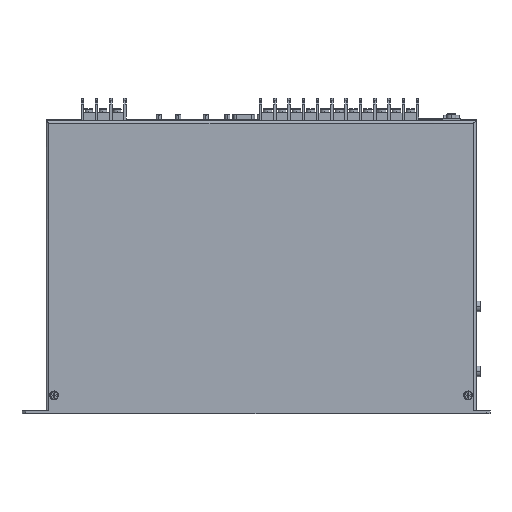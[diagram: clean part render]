
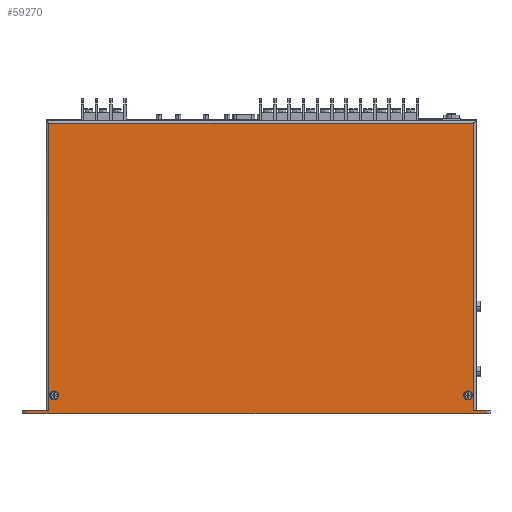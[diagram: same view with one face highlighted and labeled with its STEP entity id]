
A CAD part, left-side view. The second image highlights one B-rep face of the part: STEP entity #59270.
In plain terms, the highlighted planar face has unit normal (-1, 0, 0).
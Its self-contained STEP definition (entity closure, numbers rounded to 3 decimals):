
#4752 = VECTOR ( 'NONE', #67605, 1000. ) ;
#4801 = EDGE_CURVE ( 'NONE', #194789, #201209, #72274, .T. ) ;
#9593 = LINE ( 'NONE', #145103, #4752 ) ;
#9686 = DIRECTION ( 'NONE',  ( 0., 0., -1. ) ) ;
#10917 = VERTEX_POINT ( 'NONE', #179606 ) ;
#10939 = EDGE_CURVE ( 'NONE', #44214, #85034, #149788, .T. ) ;
#11603 = DIRECTION ( 'NONE',  ( 0., 0., 1. ) ) ;
#11951 = CARTESIAN_POINT ( 'NONE',  ( 0., 340.131, 569.946 ) ) ;
#12133 = ORIENTED_EDGE ( 'NONE', *, *, #198723, .T. ) ;
#12541 = CARTESIAN_POINT ( 'NONE',  ( 0., 12.675, 223.748 ) ) ;
#12748 = PLANE ( 'NONE',  #196624 ) ;
#13236 = VERTEX_POINT ( 'NONE', #134756 ) ;
#15186 = EDGE_CURVE ( 'NONE', #124789, #13236, #189703, .T. ) ;
#20382 = CARTESIAN_POINT ( 'NONE',  ( 0., 360.68, 2.286 ) ) ;
#27376 = CARTESIAN_POINT ( 'NONE',  ( 0., 357.632, 2.286 ) ) ;
#31124 = VECTOR ( 'NONE', #11603, 1000. ) ;
#32118 = DIRECTION ( 'NONE',  ( 1., 0., 0. ) ) ;
#34522 = CIRCLE ( 'NONE', #132486, 3.429 ) ;
#36163 = VERTEX_POINT ( 'NONE', #51923 ) ;
#37307 = AXIS2_PLACEMENT_3D ( 'NONE', #141324, #48187, #156928 ) ;
#44214 = VERTEX_POINT ( 'NONE', #196427 ) ;
#48187 = DIRECTION ( 'NONE',  ( 1., 0., 0. ) ) ;
#51210 = EDGE_LOOP ( 'NONE', ( #199321, #156815, #126453, #65942, #137754, #92869, #102655, #170376 ) ) ;
#51923 = CARTESIAN_POINT ( 'NONE',  ( 0., 16.866, 17.399 ) ) ;
#59270 = ADVANCED_FACE ( 'NONE', ( #201613, #119016, #128734 ), #12748, .F. ) ;
#59541 = CARTESIAN_POINT ( 'NONE',  ( 0., 10.668, 569.946 ) ) ;
#59786 = LINE ( 'NONE', #20382, #137638 ) ;
#63083 = EDGE_CURVE ( 'NONE', #201209, #10917, #140081, .T. ) ;
#65389 = EDGE_CURVE ( 'NONE', #93825, #133464, #105955, .T. ) ;
#65635 = DIRECTION ( 'NONE',  ( 0., 1., 0. ) ) ;
#65942 = ORIENTED_EDGE ( 'NONE', *, *, #112232, .F. ) ;
#66018 = CIRCLE ( 'NONE', #195060, 3.429 ) ;
#66907 = CARTESIAN_POINT ( 'NONE',  ( 0., 12.675, 2.286 ) ) ;
#67290 = CIRCLE ( 'NONE', #37307, 3.429 ) ;
#67605 = DIRECTION ( 'NONE',  ( 0., 1., 0. ) ) ;
#68735 = LINE ( 'NONE', #11951, #187905 ) ;
#70815 = DIRECTION ( 'NONE',  ( 0., 0., 1. ) ) ;
#71452 = LINE ( 'NONE', #194395, #190671 ) ;
#72274 = LINE ( 'NONE', #120287, #31124 ) ;
#74717 = CARTESIAN_POINT ( 'NONE',  ( 0., 340.131, 2.286 ) ) ;
#75163 = DIRECTION ( 'NONE',  ( 0., 0., -1. ) ) ;
#81213 = CARTESIAN_POINT ( 'NONE',  ( 0., 340.131, 223.748 ) ) ;
#85034 = VERTEX_POINT ( 'NONE', #102681 ) ;
#87112 = DIRECTION ( 'NONE',  ( 1., 0., 0. ) ) ;
#92869 = ORIENTED_EDGE ( 'NONE', *, *, #114238, .F. ) ;
#93825 = VERTEX_POINT ( 'NONE', #27376 ) ;
#93843 = VECTOR ( 'NONE', #65635, 1000. ) ;
#95995 = ORIENTED_EDGE ( 'NONE', *, *, #108989, .T. ) ;
#102655 = ORIENTED_EDGE ( 'NONE', *, *, #15186, .T. ) ;
#102681 = CARTESIAN_POINT ( 'NONE',  ( 0., 335.94, 10.541 ) ) ;
#102745 = DIRECTION ( 'NONE',  ( 1., 0., 0. ) ) ;
#103778 = DIRECTION ( 'NONE',  ( 0., 0., -1. ) ) ;
#105030 = DIRECTION ( 'NONE',  ( 0., 0., -1. ) ) ;
#105955 = LINE ( 'NONE', #196813, #188589 ) ;
#106810 = VERTEX_POINT ( 'NONE', #167903 ) ;
#107688 = EDGE_LOOP ( 'NONE', ( #95995, #12133 ) ) ;
#108989 = EDGE_CURVE ( 'NONE', #106810, #36163, #66018, .T. ) ;
#112232 = EDGE_CURVE ( 'NONE', #93825, #176302, #71452, .T. ) ;
#114238 = EDGE_CURVE ( 'NONE', #124789, #133464, #9593, .T. ) ;
#118936 = EDGE_CURVE ( 'NONE', #194789, #13236, #59786, .T. ) ;
#119016 = FACE_BOUND ( 'NONE', #195337, .T. ) ;
#120287 = CARTESIAN_POINT ( 'NONE',  ( 0., 12.675, 569.946 ) ) ;
#124789 = VERTEX_POINT ( 'NONE', #135282 ) ;
#125064 = CARTESIAN_POINT ( 'NONE',  ( 0., 16.866, 13.97 ) ) ;
#126453 = ORIENTED_EDGE ( 'NONE', *, *, #198377, .T. ) ;
#128734 = FACE_OUTER_BOUND ( 'NONE', #51210, .T. ) ;
#129745 = CARTESIAN_POINT ( 'NONE',  ( 0., 357.632, 0. ) ) ;
#132486 = AXIS2_PLACEMENT_3D ( 'NONE', #195801, #102745, #9686 ) ;
#133464 = VERTEX_POINT ( 'NONE', #129745 ) ;
#134756 = CARTESIAN_POINT ( 'NONE',  ( 0., 3.048, 2.286 ) ) ;
#135282 = CARTESIAN_POINT ( 'NONE',  ( 0., 3.048, 0. ) ) ;
#137638 = VECTOR ( 'NONE', #160239, 1000. ) ;
#137754 = ORIENTED_EDGE ( 'NONE', *, *, #65389, .T. ) ;
#140081 = LINE ( 'NONE', #81213, #93843 ) ;
#140707 = DIRECTION ( 'NONE',  ( 0., 0., -1. ) ) ;
#141324 = CARTESIAN_POINT ( 'NONE',  ( 0., 335.94, 13.97 ) ) ;
#143485 = VECTOR ( 'NONE', #70815, 1000. ) ;
#145103 = CARTESIAN_POINT ( 'NONE',  ( 0., 360.68, 0. ) ) ;
#146876 = DIRECTION ( 'NONE',  ( 0., -1., 0. ) ) ;
#149788 = CIRCLE ( 'NONE', #170138, 3.429 ) ;
#155238 = ORIENTED_EDGE ( 'NONE', *, *, #10939, .T. ) ;
#156815 = ORIENTED_EDGE ( 'NONE', *, *, #63083, .T. ) ;
#156928 = DIRECTION ( 'NONE',  ( 0., 0., -1. ) ) ;
#160239 = DIRECTION ( 'NONE',  ( 0., -1., 0. ) ) ;
#167903 = CARTESIAN_POINT ( 'NONE',  ( 0., 16.866, 10.541 ) ) ;
#168233 = DIRECTION ( 'NONE',  ( 1., 0., 0. ) ) ;
#170138 = AXIS2_PLACEMENT_3D ( 'NONE', #180262, #87112, #195852 ) ;
#170376 = ORIENTED_EDGE ( 'NONE', *, *, #118936, .F. ) ;
#175040 = EDGE_CURVE ( 'NONE', #85034, #44214, #67290, .T. ) ;
#176302 = VERTEX_POINT ( 'NONE', #74717 ) ;
#179606 = CARTESIAN_POINT ( 'NONE',  ( 0., 340.131, 223.748 ) ) ;
#179985 = ORIENTED_EDGE ( 'NONE', *, *, #175040, .T. ) ;
#180262 = CARTESIAN_POINT ( 'NONE',  ( 0., 335.94, 13.97 ) ) ;
#187905 = VECTOR ( 'NONE', #105030, 1000. ) ;
#188589 = VECTOR ( 'NONE', #103778, 1000. ) ;
#189703 = LINE ( 'NONE', #194541, #143485 ) ;
#190671 = VECTOR ( 'NONE', #146876, 1000. ) ;
#194395 = CARTESIAN_POINT ( 'NONE',  ( 0., 360.68, 2.286 ) ) ;
#194541 = CARTESIAN_POINT ( 'NONE',  ( 0., 3.048, 569.946 ) ) ;
#194789 = VERTEX_POINT ( 'NONE', #66907 ) ;
#195060 = AXIS2_PLACEMENT_3D ( 'NONE', #125064, #32118, #140707 ) ;
#195337 = EDGE_LOOP ( 'NONE', ( #179985, #155238 ) ) ;
#195801 = CARTESIAN_POINT ( 'NONE',  ( 0., 16.866, 13.97 ) ) ;
#195852 = DIRECTION ( 'NONE',  ( 0., 0., -1. ) ) ;
#196427 = CARTESIAN_POINT ( 'NONE',  ( 0., 335.94, 17.399 ) ) ;
#196624 = AXIS2_PLACEMENT_3D ( 'NONE', #59541, #168233, #75163 ) ;
#196813 = CARTESIAN_POINT ( 'NONE',  ( 0., 357.632, 569.946 ) ) ;
#198377 = EDGE_CURVE ( 'NONE', #10917, #176302, #68735, .T. ) ;
#198723 = EDGE_CURVE ( 'NONE', #36163, #106810, #34522, .T. ) ;
#199321 = ORIENTED_EDGE ( 'NONE', *, *, #4801, .T. ) ;
#201209 = VERTEX_POINT ( 'NONE', #12541 ) ;
#201613 = FACE_BOUND ( 'NONE', #107688, .T. ) ;
